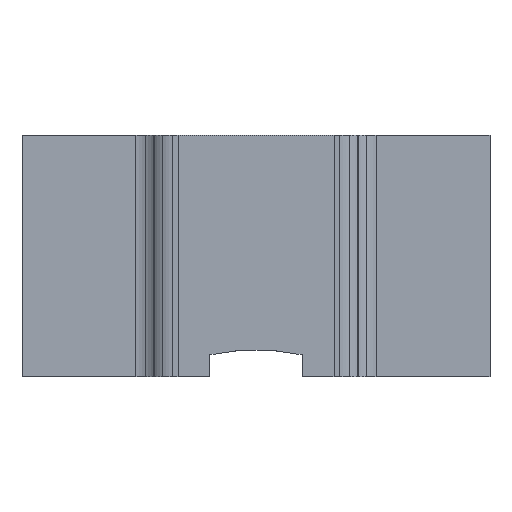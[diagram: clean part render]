
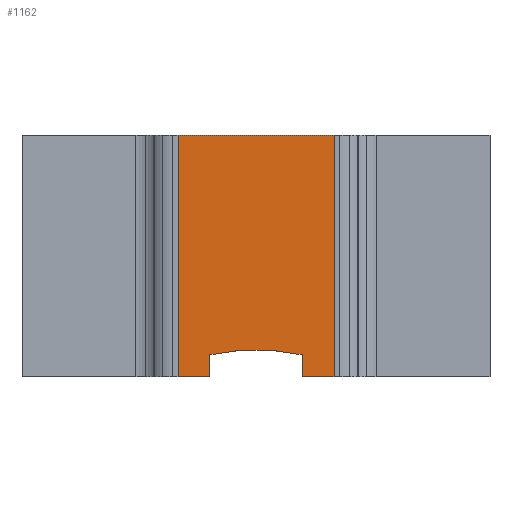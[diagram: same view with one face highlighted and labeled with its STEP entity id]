
A CAD part, top view. The second image highlights one B-rep face of the part: STEP entity #1162.
In plain terms, the highlighted planar face has unit normal (0, 0, 1).
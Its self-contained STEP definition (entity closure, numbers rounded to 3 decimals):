
#4 = VECTOR ( 'NONE', #829, 1000. ) ;
#66 = DIRECTION ( 'NONE',  ( 0., 1., 0. ) ) ;
#93 = DIRECTION ( 'NONE',  ( 1., 0., 0. ) ) ;
#105 = DIRECTION ( 'NONE',  ( 0., -1., 0. ) ) ;
#116 = LINE ( 'NONE', #277, #151 ) ;
#151 = VECTOR ( 'NONE', #1006, 1000. ) ;
#187 = PLANE ( 'NONE',  #390 ) ;
#193 = VERTEX_POINT ( 'NONE', #1111 ) ;
#204 = CARTESIAN_POINT ( 'NONE',  ( -2.5, 7.75, 1.338 ) ) ;
#218 = DIRECTION ( 'NONE',  ( 0., -1., 0. ) ) ;
#221 = EDGE_CURVE ( 'NONE', #947, #843, #252, .T. ) ;
#228 = LINE ( 'NONE', #1053, #899 ) ;
#238 = EDGE_CURVE ( 'NONE', #1321, #193, #116, .T. ) ;
#252 = LINE ( 'NONE', #784, #1344 ) ;
#259 = LINE ( 'NONE', #520, #506 ) ;
#277 = CARTESIAN_POINT ( 'NONE',  ( -2.5, 7.75, 1.338 ) ) ;
#298 = CARTESIAN_POINT ( 'NONE',  ( 2.5, 0., 1.338 ) ) ;
#309 = DIRECTION ( 'NONE',  ( 0., 0., 1. ) ) ;
#326 = AXIS2_PLACEMENT_3D ( 'NONE', #1133, #828, #1143 ) ;
#390 = AXIS2_PLACEMENT_3D ( 'NONE', #923, #309, #1239 ) ;
#412 = CARTESIAN_POINT ( 'NONE',  ( -2.5, 0., 1.338 ) ) ;
#413 = VERTEX_POINT ( 'NONE', #844 ) ;
#497 = ORIENTED_EDGE ( 'NONE', *, *, #1118, .F. ) ;
#499 = ORIENTED_EDGE ( 'NONE', *, *, #1038, .T. ) ;
#506 = VECTOR ( 'NONE', #93, 1000. ) ;
#520 = CARTESIAN_POINT ( 'NONE',  ( 1.25, 0., 1.338 ) ) ;
#547 = ORIENTED_EDGE ( 'NONE', *, *, #221, .F. ) ;
#616 = EDGE_CURVE ( 'NONE', #193, #1138, #740, .T. ) ;
#658 = DIRECTION ( 'NONE',  ( 1., 0., 0. ) ) ;
#689 = VERTEX_POINT ( 'NONE', #884 ) ;
#706 = LINE ( 'NONE', #733, #1139 ) ;
#733 = CARTESIAN_POINT ( 'NONE',  ( -2.5, 7.75, 1.338 ) ) ;
#740 = LINE ( 'NONE', #1266, #983 ) ;
#756 = CIRCLE ( 'NONE', #326, 6.71 ) ;
#784 = CARTESIAN_POINT ( 'NONE',  ( 1.476, 0., 1.338 ) ) ;
#788 = ORIENTED_EDGE ( 'NONE', *, *, #1285, .T. ) ;
#825 = CARTESIAN_POINT ( 'NONE',  ( 1.476, 0., 1.338 ) ) ;
#828 = DIRECTION ( 'NONE',  ( 0., 0., 1. ) ) ;
#829 = DIRECTION ( 'NONE',  ( 0., -1., 0. ) ) ;
#839 = LINE ( 'NONE', #1050, #4 ) ;
#843 = VERTEX_POINT ( 'NONE', #1311 ) ;
#844 = CARTESIAN_POINT ( 'NONE',  ( -1.476, 0., 1.338 ) ) ;
#869 = ORIENTED_EDGE ( 'NONE', *, *, #1073, .F. ) ;
#870 = ORIENTED_EDGE ( 'NONE', *, *, #616, .F. ) ;
#884 = CARTESIAN_POINT ( 'NONE',  ( -1.476, 0.708, 1.338 ) ) ;
#893 = ORIENTED_EDGE ( 'NONE', *, *, #1349, .T. ) ;
#899 = VECTOR ( 'NONE', #658, 1000. ) ;
#923 = CARTESIAN_POINT ( 'NONE',  ( 2.5, 7.75, 1.338 ) ) ;
#947 = VERTEX_POINT ( 'NONE', #825 ) ;
#983 = VECTOR ( 'NONE', #218, 1000. ) ;
#1006 = DIRECTION ( 'NONE',  ( 1., 0., 0. ) ) ;
#1037 = VERTEX_POINT ( 'NONE', #412 ) ;
#1038 = EDGE_CURVE ( 'NONE', #1037, #413, #259, .T. ) ;
#1044 = ORIENTED_EDGE ( 'NONE', *, *, #238, .F. ) ;
#1050 = CARTESIAN_POINT ( 'NONE',  ( -1.476, 0.708, 1.338 ) ) ;
#1053 = CARTESIAN_POINT ( 'NONE',  ( 1.25, 0., 1.338 ) ) ;
#1073 = EDGE_CURVE ( 'NONE', #689, #413, #839, .T. ) ;
#1111 = CARTESIAN_POINT ( 'NONE',  ( 2.5, 7.75, 1.338 ) ) ;
#1118 = EDGE_CURVE ( 'NONE', #843, #689, #756, .T. ) ;
#1133 = CARTESIAN_POINT ( 'NONE',  ( 0., -5.837, 1.338 ) ) ;
#1138 = VERTEX_POINT ( 'NONE', #298 ) ;
#1139 = VECTOR ( 'NONE', #105, 1000. ) ;
#1143 = DIRECTION ( 'NONE',  ( -1., 0., 0. ) ) ;
#1162 = ADVANCED_FACE ( 'NONE', ( #1273 ), #187, .T. ) ;
#1239 = DIRECTION ( 'NONE',  ( 1., 0., 0. ) ) ;
#1255 = EDGE_LOOP ( 'NONE', ( #547, #893, #870, #1044, #788, #499, #869, #497 ) ) ;
#1266 = CARTESIAN_POINT ( 'NONE',  ( 2.5, 7.75, 1.338 ) ) ;
#1273 = FACE_OUTER_BOUND ( 'NONE', #1255, .T. ) ;
#1285 = EDGE_CURVE ( 'NONE', #1321, #1037, #706, .T. ) ;
#1311 = CARTESIAN_POINT ( 'NONE',  ( 1.476, 0.708, 1.338 ) ) ;
#1321 = VERTEX_POINT ( 'NONE', #204 ) ;
#1344 = VECTOR ( 'NONE', #66, 1000. ) ;
#1349 = EDGE_CURVE ( 'NONE', #947, #1138, #228, .T. ) ;
